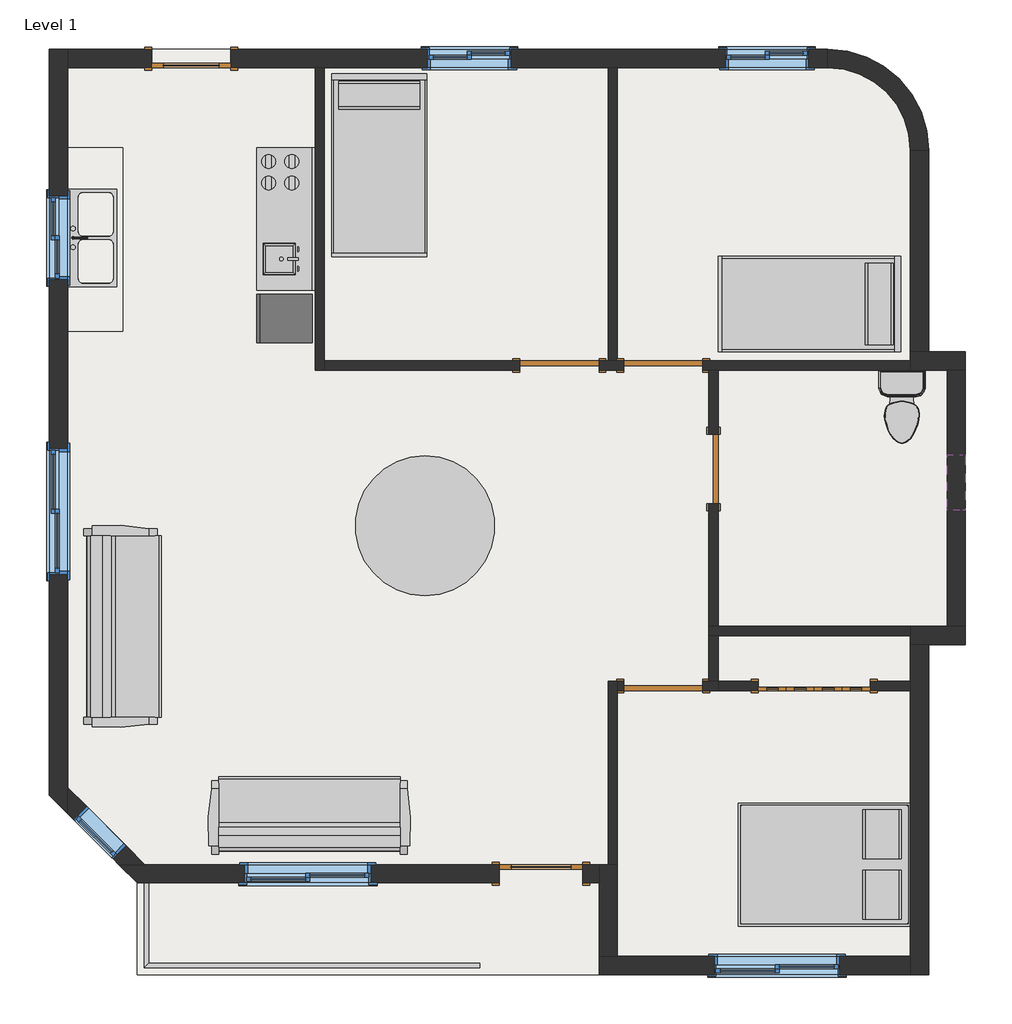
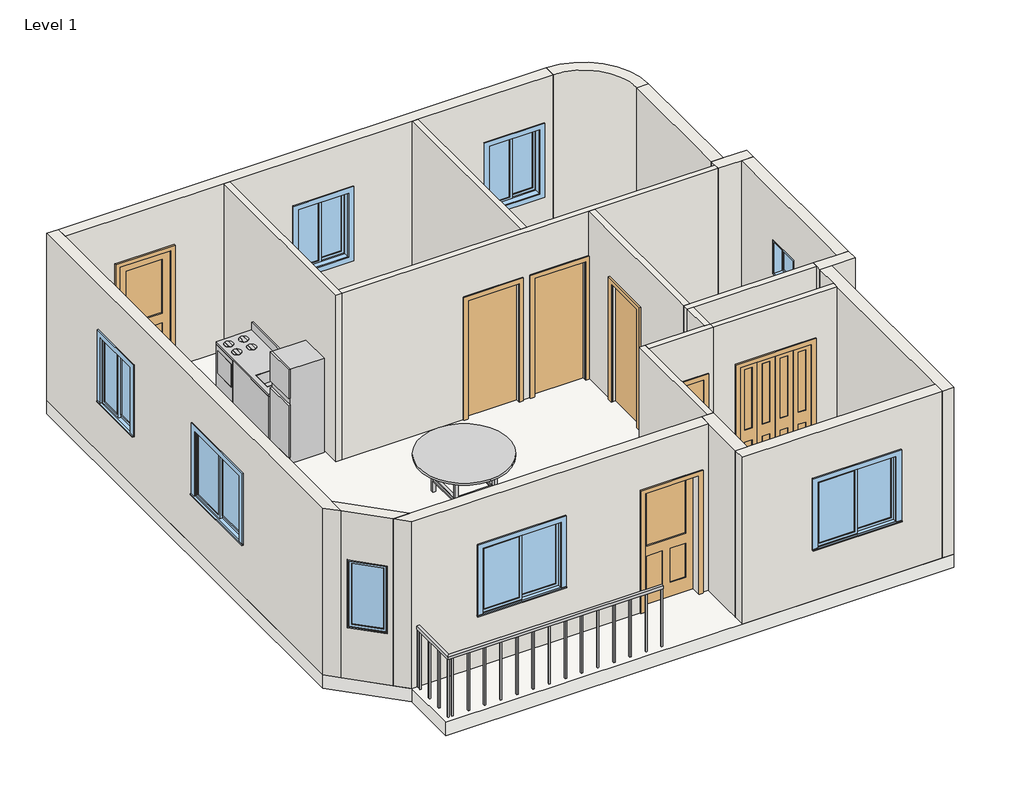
# One storey, incomplete: 21 walls, 8 windows, 7 doors, 6 furniture elements, 3 flow terminals, 2 slabs, 1 railing.
"""IFC4 building model written with IfcOpenShell, lengths in millimetres."""

from ifc_helpers import new_model, si_unit, point, frame, frame_2d, origin, origin_with_axes, place, context, project, spatial, polyline, circle_curve, trimmed, segment, composite_curve, outline, extrude, faceted_brep, transform, mapped, element, save
from components import m_bifold_4_panel_1220_x_2134mm_c9b228a8, m_single_decorative_1_0864_x_2134mm_a8b8a0d3, m_single_decorative_1_0914_x_2134mm_d79a5f66, m_single_flush_0762_x_2134mm_2f099e9c, m_single_flush_0864_x_2134mm_3838e64d, m_single_flush_0864_x_2134mm_bdbe8edc, m_kitchen_unit_635_mmx2135_mm_826748c3, m_sink_kitchen_double_1065_mmx535_mm_public_2da4eb16, m_toilet_domestic_3d_m_toilet_domestic_3d_5cb52bd4, m_toilet_domestic_3d_m_toilet_domestic_3d_183bbd19, m_bed_box_1346_x_1880mm_double_9a731973, m_bed_shaker_1040_x_1981mm_twin_31f1bf66, m_sofa_pensi_2134mm_eda8efce, m_table_dining_round_w_chairs_1525mm_diameter_e8096f67, m_fixed_0610_x_0610mm_cacddef9, m_fixed_0610_x_1220mm_4e981104, m_sliding_with_trim_0915_x_1220mm_c5f69082, m_sliding_with_trim_1372_x_1220mm_1cbd48f5

model = new_model("IFC4")

# Units and contexts
model_context = context("Model", 3, world=origin())
ifc_project = project(units=[si_unit("LENGTHUNIT", "METRE", prefix="MILLI")], contexts=[model_context])

# Site, building, storey
site = spatial("IfcSite", under=ifc_project)
building = spatial("IfcBuilding", under=site)
storey = spatial("IfcBuildingStorey", under=building, Name="Level 1", Elevation=0.0)

# Doors
placement = place(None, origin())
m_bifold_4_panel_1220_x_2134mm_shape = m_bifold_4_panel_1220_x_2134mm_c9b228a8(model_context)
element("IfcDoor", 1, ObjectType="M_Bifold-4 Panel : 1220 x 2134mm", at=placement, inside=storey, context=model_context, shape_type="MappedRepresentation", body=[
    mapped(m_bifold_4_panel_1220_x_2134mm_shape, transform((-9012.9123896, -2705.4324328, 0.0), x_axis=(-1.0, 0.0, 0.0), y_axis=(0.0, -1.0, 0.0), z_axis=(0.0, 0.0, 1.0))),
])
m_single_decorative_1_0864_x_2134mm_shape = m_single_decorative_1_0864_x_2134mm_a8b8a0d3(model_context)
element("IfcDoor", 2, ObjectType="M_Single-Decorative 1 : 0864 x 2134mm", at=placement, inside=storey, context=model_context, shape_type="MappedRepresentation", body=[
    mapped(m_single_decorative_1_0864_x_2134mm_shape, transform((-15812.9123896, 4144.5675672, 0.0), x_axis=(-1.0, 0.0, 0.0), y_axis=(0.0, -1.0, 0.0), z_axis=(0.0, 0.0, 1.0))),
])
m_single_decorative_1_0914_x_2134mm_shape = m_single_decorative_1_0914_x_2134mm_d79a5f66(model_context)
element("IfcDoor", 3, ObjectType="M_Single-Decorative 1 : 0914 x 2134mm", at=placement, inside=storey, context=model_context, shape_type="MappedRepresentation", body=[
    mapped(m_single_decorative_1_0914_x_2134mm_shape, transform((-11994.9123896, -4755.4324328, 0.0), x_axis=(1.0, 0.0, 0.0), y_axis=(0.0, 1.0, 0.0), z_axis=(0.0, 0.0, 1.0))),
])
m_single_flush_0762_x_2134mm_shape = m_single_flush_0762_x_2134mm_2f099e9c(model_context)
element("IfcDoor", 4, ObjectType="M_Single-Flush : 0762 x 2134mm", at=placement, inside=storey, context=model_context, shape_type="MappedRepresentation", body=[
    mapped(m_single_flush_0762_x_2134mm_shape, transform((-10112.9123896, -336.4324328, 0.0), x_axis=(0.0, 1.0, 0.0), y_axis=(-1.0, 0.0, 0.0), z_axis=(0.0, 0.0, 1.0))),
])
m_single_flush_0864_x_2134mm_shape = m_single_flush_0864_x_2134mm_3838e64d(model_context)
element("IfcDoor", 5, ObjectType="M_Single-Flush : 0864 x 2134mm", at=placement, inside=storey, context=model_context, shape_type="MappedRepresentation", body=[
    mapped(m_single_flush_0864_x_2134mm_shape, transform((-10662.9123896, -2705.4324328, 0.0), x_axis=(-1.0, 0.0, 0.0), y_axis=(0.0, -1.0, 0.0), z_axis=(0.0, 0.0, 1.0))),
])
element("IfcDoor", 6, ObjectType="M_Single-Flush : 0864 x 2134mm", at=placement, inside=storey, context=model_context, shape_type="MappedRepresentation", body=[
    mapped(m_single_flush_0864_x_2134mm_shape, transform((-11794.9123896, 794.5675672, 0.0), x_axis=(1.0, 0.0, 0.0), y_axis=(0.0, 1.0, 0.0), z_axis=(0.0, 0.0, 1.0))),
])
m_single_flush_0864_x_2134mm_2_shape = m_single_flush_0864_x_2134mm_bdbe8edc(model_context)
element("IfcDoor", 7, ObjectType="M_Single-Flush : 0864 x 2134mm", at=placement, inside=storey, context=model_context, shape_type="MappedRepresentation", body=[
    mapped(m_single_flush_0864_x_2134mm_2_shape, transform((-10662.9123896, 794.5675672, 0.0), x_axis=(-1.0, 0.0, 0.0), y_axis=(0.0, -1.0, 0.0), z_axis=(0.0, 0.0, 1.0))),
])

# Flow terminals
m_kitchen_unit_635_mmx2135_mm_shape = m_kitchen_unit_635_mmx2135_mm_826748c3(model_context)
element("IfcFlowTerminal", 8, ObjectType="M_Kitchen Unit : 635 mmx2135 mm", at=placement, inside=storey, context=model_context, shape_type="MappedRepresentation", body=[
    mapped(m_kitchen_unit_635_mmx2135_mm_shape, transform((-14462.9123896, 2394.5675672, 0.0), x_axis=(-1.0000000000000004, 0.0, 0.0), y_axis=(0.0, -1.0000000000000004, 0.0), z_axis=(0.0, 0.0, 1.0))),
])
m_sink_kitchen_double_1065_mmx535_mm_public_shape = m_sink_kitchen_double_1065_mmx535_mm_public_2da4eb16(model_context)
element("IfcFlowTerminal", 9, ObjectType="M_Sink - Kitchen - Double : 1065 mmx535 mm - Public", at=placement, inside=storey, context=model_context, shape_type="MappedRepresentation", body=[
    mapped(m_sink_kitchen_double_1065_mmx535_mm_public_shape, transform((-17162.9123896, 2187.0675672, 800.0), x_axis=(0.0, 1.0, 0.0), y_axis=(-1.0, 0.0, 0.0), z_axis=(0.0, 0.0, 1.0))),
])
m_toilet_domestic_3d_m_toilet_domestic_3d_shape = m_toilet_domestic_3d_m_toilet_domestic_3d_5cb52bd4(model_context)
m_toilet_domestic_3d_m_toilet_domestic_3d_2_shape = m_toilet_domestic_3d_m_toilet_domestic_3d_183bbd19(model_context)
element("IfcFlowTerminal", 10, ObjectType="M_Toilet-Domestic-3D : M_Toilet-Domestic-3D", at=placement, inside=storey, context=model_context, shape_type="MappedRepresentation", body=[
    mapped(m_toilet_domestic_3d_m_toilet_domestic_3d_shape, transform((-8056.308417, 249.8715399, 0.0), x_axis=(1.0, 0.0, 0.0), y_axis=(0.0, 1.0, 0.0), z_axis=(0.0, 0.0, 1.0))),
    mapped(m_toilet_domestic_3d_m_toilet_domestic_3d_2_shape, transform((-8056.308417, 249.8715399, 0.0), x_axis=(1.0, 0.0, 0.0), y_axis=(0.0, 1.0, 0.0), z_axis=(0.0, 0.0, 1.0))),
])

# Furniture
m_bed_box_1346_x_1880mm_double_shape = m_bed_box_1346_x_1880mm_double_9a731973(model_context)
element("IfcFurniture", 11, ObjectType="M_Bed-Box : 1346 x 1880mm - Double", at=placement, inside=storey, context=model_context, shape_type="MappedRepresentation", body=[
    mapped(m_bed_box_1346_x_1880mm_double_shape, transform((-8668.4828814, -4316.2799738, 0.0), x_axis=(0.0, -1.0, 0.0), y_axis=(1.0, 0.0, 0.0), z_axis=(0.0, 0.0, 1.0))),
])
m_bed_shaker_1040_x_1981mm_twin_shape = m_bed_shaker_1040_x_1981mm_twin_31f1bf66(model_context)
element("IfcFurniture", 12, ObjectType="M_Bed-Shaker : 1040 x 1981mm - Twin", at=placement, inside=storey, context=model_context, shape_type="MappedRepresentation", body=[
    mapped(m_bed_shaker_1040_x_1981mm_twin_shape, transform((-8081.7123896, 1446.2175672, 0.0), x_axis=(0.0, -1.0000000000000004, 0.0), y_axis=(1.0000000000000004, 0.0, 0.0), z_axis=(0.0, 0.0, 1.0))),
])
element("IfcFurniture", 13, ObjectType="M_Bed-Shaker : 1040 x 1981mm - Twin", at=placement, inside=storey, context=model_context, shape_type="MappedRepresentation", body=[
    mapped(m_bed_shaker_1040_x_1981mm_twin_shape, transform((-13743.1623896, 3964.5675672, 0.0), x_axis=(1.0, 0.0, 0.0), y_axis=(0.0, 1.0, 0.0), z_axis=(0.0, 0.0, 1.0))),
])
m_sofa_pensi_2134mm_shape = m_sofa_pensi_2134mm_eda8efce(model_context)
element("IfcFurniture", 14, ObjectType="M_Sofa-Pensi : 2134mm", at=placement, inside=storey, context=model_context, shape_type="MappedRepresentation", body=[
    mapped(m_sofa_pensi_2134mm_shape, transform((-14244.3061396, -3838.3225967, 0.0), x_axis=(-0.9999999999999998, 0.0, 0.0), y_axis=(0.0, -0.9999999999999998, 0.0), z_axis=(0.0, 0.0, 1.0))),
])
element("IfcFurniture", 15, ObjectType="M_Sofa-Pensi : 2134mm", at=placement, inside=storey, context=model_context, shape_type="MappedRepresentation", body=[
    mapped(m_sofa_pensi_2134mm_shape, transform((-16285.8025536, -2334.0386828, 0.0), x_axis=(0.0, 1.0000000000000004, 0.0), y_axis=(-1.0000000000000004, 0.0, 0.0), z_axis=(0.0, 0.0, 1.0))),
])
m_table_dining_round_w_chairs_1525mm_diameter_shape = m_table_dining_round_w_chairs_1525mm_diameter_e8096f67(model_context)
element("IfcFurniture", 16, ObjectType="M_Table-Dining Round w Chairs : 1525mm Diameter", at=placement, inside=storey, context=model_context, shape_type="MappedRepresentation", body=[
    mapped(m_table_dining_round_w_chairs_1525mm_diameter_shape, transform((-13366.5943568, -770.5537443, 0.0), x_axis=(1.0, 0.0, 0.0), y_axis=(0.0, 1.0, 0.0), z_axis=(0.0, 0.0, 1.0))),
])

# Railing
element("IfcRailing", 17, ObjectType="1100mm", at=placement, inside=storey, context=model_context, shape_type="SolidModel", body=[
    faceted_brep([(-12662.9123896, -5780.4324328, 1100.0), (-12662.9123896, -5780.4324328, 1050.0), (-12662.9123896, -5730.4324328, 1050.0), (-12662.9123896, -5730.4324328, 1100.0), (-16329.3337459, -5780.4324328, 1100.0), (-16329.3337459, -5780.4324328, 1050.0), (-16279.3337459, -5730.4324328, 1050.0), (-16279.3337459, -5730.4324328, 1100.0), (-16329.3337459, -4855.4324328, 1100.0), (-16279.3337459, -4855.4324328, 1100.0), (-16279.3337459, -4855.4324328, 1050.0), (-16329.3337459, -4855.4324328, 1050.0)], [[[0, 1, 2, 3]], [[1, 0, 4, 5]], [[2, 1, 5, 6]], [[3, 2, 6, 7]], [[0, 3, 7, 4]], [[8, 9, 10, 11]], [[5, 4, 8, 11]], [[6, 5, 11, 10]], [[7, 6, 10, 9]], [[4, 7, 9, 8]]]),
    extrude(outline(polyline([(-16291.8337459, -4942.9324328), (-16316.8337459, -4942.9324328), (-16316.8337459, -4917.9324328), (-16291.8337459, -4917.9324328), (-16291.8337459, -4942.9324328)])), origin_with_axes(), (0.0, 0.0, 1.0), 1050.0),
    extrude(outline(polyline([(-16291.8337459, -5217.9324328), (-16316.8337459, -5217.9324328), (-16316.8337459, -5192.9324328), (-16291.8337459, -5192.9324328), (-16291.8337459, -5217.9324328)])), origin_with_axes(), (0.0, 0.0, 1.0), 1050.0),
    extrude(outline(polyline([(-16291.8337459, -5492.9324328), (-16316.8337459, -5492.9324328), (-16316.8337459, -5467.9324328), (-16291.8337459, -5467.9324328), (-16291.8337459, -5492.9324328)])), origin_with_axes(), (0.0, 0.0, 1.0), 1050.0),
    extrude(outline(polyline([(-16225.4123896, -5742.9324328), (-16225.4123896, -5767.9324328), (-16250.4123896, -5767.9324328), (-16250.4123896, -5742.9324328), (-16225.4123896, -5742.9324328)])), origin_with_axes(), (0.0, 0.0, 1.0), 1050.0),
    extrude(outline(polyline([(-15950.4123896, -5742.9324328), (-15950.4123896, -5767.9324328), (-15975.4123896, -5767.9324328), (-15975.4123896, -5742.9324328), (-15950.4123896, -5742.9324328)])), origin_with_axes(), (0.0, 0.0, 1.0), 1050.0),
    extrude(outline(polyline([(-15675.4123896, -5742.9324328), (-15675.4123896, -5767.9324328), (-15700.4123896, -5767.9324328), (-15700.4123896, -5742.9324328), (-15675.4123896, -5742.9324328)])), origin_with_axes(), (0.0, 0.0, 1.0), 1050.0),
    extrude(outline(polyline([(-15400.4123896, -5742.9324328), (-15400.4123896, -5767.9324328), (-15425.4123896, -5767.9324328), (-15425.4123896, -5742.9324328), (-15400.4123896, -5742.9324328)])), origin_with_axes(), (0.0, 0.0, 1.0), 1050.0),
    extrude(outline(polyline([(-15125.4123896, -5742.9324328), (-15125.4123896, -5767.9324328), (-15150.4123896, -5767.9324328), (-15150.4123896, -5742.9324328), (-15125.4123896, -5742.9324328)])), origin_with_axes(), (0.0, 0.0, 1.0), 1050.0),
    extrude(outline(polyline([(-14850.4123896, -5742.9324328), (-14850.4123896, -5767.9324328), (-14875.4123896, -5767.9324328), (-14875.4123896, -5742.9324328), (-14850.4123896, -5742.9324328)])), origin_with_axes(), (0.0, 0.0, 1.0), 1050.0),
    extrude(outline(polyline([(-14575.4123896, -5742.9324328), (-14575.4123896, -5767.9324328), (-14600.4123896, -5767.9324328), (-14600.4123896, -5742.9324328), (-14575.4123896, -5742.9324328)])), origin_with_axes(), (0.0, 0.0, 1.0), 1050.0),
    extrude(outline(polyline([(-14300.4123896, -5742.9324328), (-14300.4123896, -5767.9324328), (-14325.4123896, -5767.9324328), (-14325.4123896, -5742.9324328), (-14300.4123896, -5742.9324328)])), origin_with_axes(), (0.0, 0.0, 1.0), 1050.0),
    extrude(outline(polyline([(-14025.4123896, -5742.9324328), (-14025.4123896, -5767.9324328), (-14050.4123896, -5767.9324328), (-14050.4123896, -5742.9324328), (-14025.4123896, -5742.9324328)])), origin_with_axes(), (0.0, 0.0, 1.0), 1050.0),
    extrude(outline(polyline([(-13750.4123896, -5742.9324328), (-13750.4123896, -5767.9324328), (-13775.4123896, -5767.9324328), (-13775.4123896, -5742.9324328), (-13750.4123896, -5742.9324328)])), origin_with_axes(), (0.0, 0.0, 1.0), 1050.0),
    extrude(outline(polyline([(-13475.4123896, -5742.9324328), (-13475.4123896, -5767.9324328), (-13500.4123896, -5767.9324328), (-13500.4123896, -5742.9324328), (-13475.4123896, -5742.9324328)])), origin_with_axes(), (0.0, 0.0, 1.0), 1050.0),
    extrude(outline(polyline([(-13200.4123896, -5742.9324328), (-13200.4123896, -5767.9324328), (-13225.4123896, -5767.9324328), (-13225.4123896, -5742.9324328), (-13200.4123896, -5742.9324328)])), origin_with_axes(), (0.0, 0.0, 1.0), 1050.0),
    extrude(outline(polyline([(-12925.4123896, -5742.9324328), (-12925.4123896, -5767.9324328), (-12950.4123896, -5767.9324328), (-12950.4123896, -5742.9324328), (-12925.4123896, -5742.9324328)])), origin_with_axes(), (0.0, 0.0, 1.0), 1050.0),
    extrude(outline(polyline([(-16291.8337459, -5742.9324328), (-16291.8337459, -5767.9324328), (-16316.8337459, -5767.9324328), (-16316.8337459, -5742.9324328), (-16291.8337459, -5742.9324328)])), origin_with_axes(), (0.0, 0.0, 1.0), 1050.0),
    extrude(outline(polyline([(-16291.8337459, -4880.4324328), (-16316.8337459, -4880.4324328), (-16316.8337459, -4855.4324328), (-16291.8337459, -4855.4324328), (-16291.8337459, -4880.4324328)])), origin_with_axes(), (0.0, 0.0, 1.0), 1050.0),
    extrude(outline(polyline([(-12662.9123896, -5742.9324328), (-12662.9123896, -5767.9324328), (-12687.9123896, -5767.9324328), (-12687.9123896, -5742.9324328), (-12662.9123896, -5742.9324328)])), origin_with_axes(), (0.0, 0.0, 1.0), 1050.0),
])

# Slabs
element("IfcSlab", 18, ObjectType="Generic 50mm", at=placement, inside=storey, context=model_context, shape_type="SweptSolid", body=[
    extrude(outline(polyline([(-16562.9123896, 3169.8695603), (-16562.9123896, 1169.8695603), (-17162.9123896, 1169.8695603), (-17162.9123896, 3169.8695603), (-16562.9123896, 3169.8695603)])), frame((0.0, 0.0, 750.0), z_axis=(0.0, 0.0, 1.0), x_axis=(1.0, 0.0, 0.0)), (0.0, 0.0, 1.0), 50.0),
])
element("IfcSlab", 19, ObjectType="Standard Timber-Wood Finish", at=placement, inside=storey, context=model_context, shape_type="SweptSolid", body=[
    extrude(outline(composite_curve([segment(polyline([(-7762.9123896, 944.5675672), (-7362.9123896, 944.5675672), (-7362.9123896, -2255.4324328), (-7762.9123896, -2255.4324328), (-7762.9123896, -5855.4324328), (-16404.3337459, -5855.4324328), (-16404.3337459, -4855.4324328), (-17362.9123896, -3896.853789), (-17362.9123896, 4244.5675672), (-8862.9123896, 4244.5675672)]), True, "CONTINUOUS"), segment(trimmed(circle_curve(frame_2d((-8862.9123896, 3144.5675672)), 1100.0), [point((-8862.9123896, 4244.5675672))], [point((-7762.9123896, 3144.5675672))], False, "CARTESIAN"), True, "CONTINUOUS"), segment(polyline([(-7762.9123896, 3144.5675672), (-7762.9123896, 944.5675672)]), True, "CONTINUOUS")], self_intersect=False)), frame((0.0, 0.0, -241.0), z_axis=(0.0, 0.0, 1.0), x_axis=(1.0, 0.0, 0.0)), (0.0, 0.0, 1.0), 241.0),
])

# Walls
element("IfcWall", 20, ObjectType="Generic - 100mm", at=placement, inside=storey, context=model_context, shape_type="Brep", body=[
    faceted_brep([(-7962.9123896, -2055.4324328, 0.0), (-10062.9123896, -2055.4324328, 0.0), (-10162.9123896, -2055.4324328, 0.0), (-10162.9123896, -2055.4324328, 3000.0), (-10062.9123896, -2055.4324328, 3000.0), (-7962.9123896, -2055.4324328, 3000.0), (-7962.9123896, -2155.4324328, 0.0), (-7962.9123896, -2155.4324328, 3000.0), (-10062.9123896, -2155.4324328, 3000.0), (-10162.9123896, -2155.4324328, 3000.0), (-10162.9123896, -2155.4324328, 0.0), (-10062.9123896, -2155.4324328, 0.0)], [[[0, 1, 2, 3, 4, 5]], [[6, 7, 8, 9, 10, 11]], [[2, 1, 0, 6, 11, 10]], [[5, 4, 3, 9, 8, 7]], [[0, 5, 7, 6]], [[3, 2, 10, 9]]]),
])
element("IfcWall", 21, ObjectType="Generic - 100mm", at=placement, inside=storey, context=model_context, shape_type="Brep", body=[
    faceted_brep([(-11262.9123896, -2655.4324328, 0.0), (-11262.9123896, -4655.4324328, 0.0), (-11262.9123896, -4655.4324328, 3000.0), (-11262.9123896, -2655.4324328, 3000.0), (-11162.9123896, -2655.4324328, 0.0), (-11162.9123896, -2655.4324328, 3000.0), (-11162.9123896, -2755.4324328, 3000.0), (-11162.9123896, -4655.4324328, 3000.0), (-11162.9123896, -4655.4324328, 0.0), (-11162.9123896, -2755.4324328, 0.0)], [[[0, 1, 2, 3]], [[4, 5, 6, 7, 8, 9]], [[1, 0, 4, 9, 8]], [[3, 2, 7, 6, 5]], [[2, 1, 8, 7]], [[0, 3, 5, 4]]]),
])
element("IfcWall", 22, ObjectType="Generic - 100mm", at=placement, inside=storey, context=model_context, shape_type="Brep", body=[
    faceted_brep([(-11094.9123896, -2655.4324328, 2134.0), (-11094.9123896, -2655.4324328, 0.0), (-11162.9123896, -2655.4324328, 0.0), (-11162.9123896, -2655.4324328, 3000.0), (-10162.9123896, -2655.4324328, 3000.0), (-10062.9123896, -2655.4324328, 3000.0), (-10062.9123896, -2655.4324328, 0.0), (-10162.9123896, -2655.4324328, 0.0), (-10230.9123896, -2655.4324328, 0.0), (-10230.9123896, -2655.4324328, 2134.0), (-11162.9123896, -2755.4324328, 0.0), (-11094.9123896, -2755.4324328, 0.0), (-11094.9123896, -2755.4324328, 2134.0), (-10230.9123896, -2755.4324328, 2134.0), (-10230.9123896, -2755.4324328, 0.0), (-10062.9123896, -2755.4324328, 0.0), (-10062.9123896, -2755.4324328, 3000.0), (-11162.9123896, -2755.4324328, 3000.0)], [[[0, 1, 2, 3, 4, 5, 6, 7, 8, 9]], [[10, 11, 12, 13, 14, 15, 16, 17]], [[2, 1, 11, 10]], [[8, 7, 6, 15, 14]], [[5, 4, 3, 17, 16]], [[3, 2, 10, 17]], [[6, 5, 16, 15]], [[12, 11, 1, 0]], [[13, 12, 0, 9]], [[14, 13, 9, 8]]]),
])
element("IfcWall", 23, ObjectType="Generic - 100mm", at=placement, inside=storey, context=model_context, shape_type="SweptSolid", body=[
    extrude(outline(polyline([(-10162.9123896, -2655.4324328), (-10162.9123896, -2155.4324328), (-10062.9123896, -2155.4324328), (-10062.9123896, -2655.4324328), (-10162.9123896, -2655.4324328)])), origin_with_axes(), (0.0, 0.0, 1.0), 3000.0),
])
element("IfcWall", 24, ObjectType="Generic - 100mm", at=placement, inside=storey, context=model_context, shape_type="SweptSolid", body=[
    extrude(outline(polyline([(3000.0, -7962.9123896), (3000.0, -10062.9123896), (0.0, -10062.9123896), (0.0, -9622.9123896), (2134.0, -9622.9123896), (2134.0, -8402.9123896), (0.0, -8402.9123896), (0.0, -7962.9123896), (3000.0, -7962.9123896)])), frame((0.0, -2755.4324328, 0.0), z_axis=(0.0, 1.0, 0.0), x_axis=(0.0, 0.0, 1.0)), (0.0, 0.0, 1.0), 100.0),
])
element("IfcWall", 25, ObjectType="Generic - 100mm", at=placement, inside=storey, context=model_context, shape_type="Brep", body=[
    faceted_brep([(-11094.9123896, 844.5675672, 0.0), (-11162.9123896, 844.5675672, 0.0), (-11262.9123896, 844.5675672, 0.0), (-11362.9123896, 844.5675672, 0.0), (-11362.9123896, 844.5675672, 2134.0), (-12226.9123896, 844.5675672, 2134.0), (-12226.9123896, 844.5675672, 0.0), (-14362.9123896, 844.5675672, 0.0), (-14362.9123896, 844.5675672, 3000.0), (-11262.9123896, 844.5675672, 3000.0), (-11162.9123896, 844.5675672, 3000.0), (-7962.9123896, 844.5675672, 3000.0), (-7962.9123896, 844.5675672, 0.0), (-10230.9123896, 844.5675672, 0.0), (-10230.9123896, 844.5675672, 2134.0), (-11094.9123896, 844.5675672, 2134.0), (-11362.9123896, 744.5675672, 2134.0), (-11362.9123896, 744.5675672, 0.0), (-11094.9123896, 744.5675672, 0.0), (-11094.9123896, 744.5675672, 2134.0), (-10230.9123896, 744.5675672, 2134.0), (-10230.9123896, 744.5675672, 0.0), (-10162.9123896, 744.5675672, 0.0), (-10062.9123896, 744.5675672, 0.0), (-7962.9123896, 744.5675672, 0.0), (-7962.9123896, 744.5675672, 3000.0), (-10062.9123896, 744.5675672, 3000.0), (-10162.9123896, 744.5675672, 3000.0), (-14362.9123896, 744.5675672, 3000.0), (-14362.9123896, 744.5675672, 0.0), (-12226.9123896, 744.5675672, 0.0), (-12226.9123896, 744.5675672, 2134.0)], [[[0, 1, 2, 3, 4, 5, 6, 7, 8, 9, 10, 11, 12, 13, 14, 15]], [[16, 17, 18, 19, 20, 21, 22, 23, 24, 25, 26, 27, 28, 29, 30, 31]], [[13, 12, 24, 23, 22, 21]], [[30, 29, 7, 6]], [[18, 17, 3, 2, 1, 0]], [[11, 10, 9, 8, 28, 27, 26, 25]], [[12, 11, 25, 24]], [[8, 7, 29, 28]], [[19, 18, 0, 15]], [[20, 19, 15, 14]], [[21, 20, 14, 13]], [[4, 3, 17, 16]], [[5, 4, 16, 31]], [[6, 5, 31, 30]]]),
])
element("IfcWall", 26, ObjectType="Generic - 100mm", at=placement, inside=storey, context=model_context, shape_type="SweptSolid", body=[
    extrude(outline(polyline([(744.5675672, 0.0), (44.5675672, 0.0), (44.5675672, 2134.0), (-717.4324328, 2134.0), (-717.4324328, 0.0), (-2055.4324328, 0.0), (-2055.4324328, 3000.0), (744.5675672, 3000.0), (744.5675672, 0.0)])), frame((-10162.9123896, 0.0, 0.0), z_axis=(1.0, 0.0, 0.0), x_axis=(0.0, 1.0, 0.0)), (0.0, 0.0, 1.0), 100.0),
])
element("IfcWall", 27, ObjectType="Generic - 100mm", at=placement, inside=storey, context=model_context, shape_type="Brep", body=[
    faceted_brep([(-14462.9123896, 4044.5675672, 0.0), (-14462.9123896, 744.5675672, 0.0), (-14462.9123896, 744.5675672, 3000.0), (-14462.9123896, 4044.5675672, 3000.0), (-14362.9123896, 4044.5675672, 0.0), (-14362.9123896, 4044.5675672, 3000.0), (-14362.9123896, 844.5675672, 3000.0), (-14362.9123896, 744.5675672, 3000.0), (-14362.9123896, 744.5675672, 0.0), (-14362.9123896, 844.5675672, 0.0)], [[[0, 1, 2, 3]], [[4, 5, 6, 7, 8, 9]], [[1, 0, 4, 9, 8]], [[3, 2, 7, 6, 5]], [[0, 3, 5, 4]], [[2, 1, 8, 7]]]),
])
element("IfcWall", 28, ObjectType="Generic - 100mm", at=placement, inside=storey, context=model_context, shape_type="SweptSolid", body=[
    extrude(outline(polyline([(-11262.9123896, 844.5675672), (-11262.9123896, 4044.5675672), (-11162.9123896, 4044.5675672), (-11162.9123896, 844.5675672), (-11262.9123896, 844.5675672)])), origin_with_axes(), (0.0, 0.0, 1.0), 3000.0),
])
element("IfcWall", 29, ObjectType="Generic - 200mm", at=placement, inside=storey, context=model_context, shape_type="Brep", body=[
    faceted_brep([(-17162.9123896, -4096.853789, 0.0), (-17162.9123896, -3814.0110766, 0.0), (-17162.9123896, 4044.5675672, 0.0), (-17162.9123896, 4244.5675672, 0.0), (-17162.9123896, 4244.5675672, 3000.0), (-17162.9123896, 4044.5675672, 3000.0), (-17162.9123896, -3814.0110766, 3000.0), (-17162.9123896, -4096.853789, 3000.0), (-17162.9123896, -113.4824328, 2135.0), (-17162.9123896, -113.4824328, 915.0), (-17162.9123896, -1485.4824328, 915.0), (-17162.9123896, -1485.4824328, 2135.0), (-17162.9123896, 2644.5675672, 2135.0), (-17162.9123896, 2644.5675672, 915.0), (-17162.9123896, 1729.5675672, 915.0), (-17162.9123896, 1729.5675672, 2135.0), (-17362.9123896, -3896.853789, 0.0), (-17362.9123896, -3896.853789, 3000.0), (-17362.9123896, 4244.5675672, 3000.0), (-17362.9123896, 4244.5675672, 0.0), (-17362.9123896, -113.4824328, 2135.0), (-17362.9123896, -1485.4824328, 2135.0), (-17362.9123896, -1485.4824328, 915.0), (-17362.9123896, -113.4824328, 915.0), (-17362.9123896, 2644.5675672, 2135.0), (-17362.9123896, 1729.5675672, 2135.0), (-17362.9123896, 1729.5675672, 915.0), (-17362.9123896, 2644.5675672, 915.0)], [[[0, 1, 2, 3, 4, 5, 6, 7], [8, 9, 10, 11], [12, 13, 14, 15]], [[16, 17, 18, 19], [20, 21, 22, 23], [24, 25, 26, 27]], [[3, 2, 1, 0, 16, 19]], [[7, 6, 5, 4, 18, 17]], [[4, 3, 19, 18]], [[9, 8, 20, 23]], [[10, 9, 23, 22]], [[11, 10, 22, 21]], [[8, 11, 21, 20]], [[13, 12, 24, 27]], [[14, 13, 27, 26]], [[15, 14, 26, 25]], [[12, 15, 25, 24]], [[0, 7, 17, 16]]]),
])
element("IfcWall", 30, ObjectType="Generic - 200mm", at=placement, inside=storey, context=model_context, shape_type="Brep", body=[
    faceted_brep([(-8862.9123896, 4044.5675672, 0.0), (-8862.9123896, 4044.5675672, 3000.0), (-11162.9123896, 4044.5675672, 3000.0), (-11262.9123896, 4044.5675672, 3000.0), (-14362.9123896, 4044.5675672, 3000.0), (-14462.9123896, 4044.5675672, 3000.0), (-17162.9123896, 4044.5675672, 3000.0), (-17162.9123896, 4044.5675672, 0.0), (-16244.9123896, 4044.5675672, 0.0), (-16244.9123896, 4044.5675672, 2134.0), (-15380.9123896, 4044.5675672, 2134.0), (-15380.9123896, 4044.5675672, 0.0), (-14462.9123896, 4044.5675672, 0.0), (-14362.9123896, 4044.5675672, 0.0), (-11262.9123896, 4044.5675672, 0.0), (-11162.9123896, 4044.5675672, 0.0), (-9070.4373896, 4044.5675672, 2135.0), (-9070.4373896, 4044.5675672, 915.0), (-9985.4373896, 4044.5675672, 915.0), (-9985.4373896, 4044.5675672, 2135.0), (-12320.4373896, 4044.5675672, 2135.0), (-12320.4373896, 4044.5675672, 915.0), (-13235.4373896, 4044.5675672, 915.0), (-13235.4373896, 4044.5675672, 2135.0), (-8862.9123896, 4244.5675672, 3000.0), (-8862.9123896, 4244.5675672, 0.0), (-15380.9123896, 4244.5675672, 0.0), (-15380.9123896, 4244.5675672, 2134.0), (-16244.9123896, 4244.5675672, 2134.0), (-16244.9123896, 4244.5675672, 0.0), (-17162.9123896, 4244.5675672, 0.0), (-17162.9123896, 4244.5675672, 3000.0), (-9070.4373896, 4244.5675672, 2135.0), (-9985.4373896, 4244.5675672, 2135.0), (-9985.4373896, 4244.5675672, 915.0), (-9070.4373896, 4244.5675672, 915.0), (-12320.4373896, 4244.5675672, 2135.0), (-13235.4373896, 4244.5675672, 2135.0), (-13235.4373896, 4244.5675672, 915.0), (-12320.4373896, 4244.5675672, 915.0)], [[[0, 1, 2, 3, 4, 5, 6, 7, 8, 9, 10, 11, 12, 13, 14, 15], [16, 17, 18, 19], [20, 21, 22, 23]], [[24, 25, 26, 27, 28, 29, 30, 31], [32, 33, 34, 35], [36, 37, 38, 39]], [[7, 30, 29, 8]], [[25, 0, 15, 14, 13, 12, 11, 26]], [[1, 0, 25, 24]], [[6, 5, 4, 3, 2, 1, 24, 31]], [[7, 6, 31, 30]], [[28, 9, 8, 29]], [[9, 28, 27, 10]], [[10, 27, 26, 11]], [[17, 16, 32, 35]], [[18, 17, 35, 34]], [[19, 18, 34, 33]], [[16, 19, 33, 32]], [[21, 20, 36, 39]], [[22, 21, 39, 38]], [[23, 22, 38, 37]], [[20, 23, 37, 36]]]),
])
element("IfcWall", 31, ObjectType="Generic - 200mm", at=placement, inside=storey, context=model_context, shape_type="SweptSolid", body=[
    extrude(outline(polyline([(-7962.9123896, 944.5675672), (-7962.9123896, 3144.5675672), (-7762.9123896, 3144.5675672), (-7762.9123896, 944.5675672), (-7962.9123896, 944.5675672)])), origin_with_axes(), (0.0, 0.0, 1.0), 3000.0),
])
element("IfcWall", 32, ObjectType="Generic - 200mm", at=placement, inside=storey, context=model_context, shape_type="Brep", body=[
    faceted_brep([(-7962.9123896, 744.5675672, 0.0), (-7562.9123896, 744.5675672, 0.0), (-7362.9123896, 744.5675672, 0.0), (-7362.9123896, 744.5675672, 3000.0), (-7562.9123896, 744.5675672, 3000.0), (-7962.9123896, 744.5675672, 3000.0), (-7962.9123896, 944.5675672, 0.0), (-7962.9123896, 944.5675672, 3000.0), (-7762.9123896, 944.5675672, 3000.0), (-7362.9123896, 944.5675672, 3000.0), (-7362.9123896, 944.5675672, 0.0), (-7762.9123896, 944.5675672, 0.0), (-7962.9123896, 844.5675672, 0.0), (-7962.9123896, 844.5675672, 3000.0)], [[[0, 1, 2, 3, 4, 5]], [[6, 7, 8, 9, 10, 11]], [[2, 1, 0, 12, 6, 11, 10]], [[5, 4, 3, 9, 8, 7, 13]], [[0, 5, 13, 7, 6, 12]], [[3, 2, 10, 9]]]),
])
element("IfcWall", 33, ObjectType="Generic - 200mm", at=placement, inside=storey, context=model_context, shape_type="SweptSolid", body=[
    extrude(outline(polyline([(744.5675672, 0.0), (-2055.4324328, 0.0), (-2055.4324328, 3000.0), (744.5675672, 3000.0), (744.5675672, 0.0)]), holes=[polyline([(-177.8824328, 1525.0), (-177.8824328, 2135.0), (-787.8824328, 2135.0), (-787.8824328, 1525.0), (-177.8824328, 1525.0)])]), frame((-7562.9123896, 0.0, 0.0), z_axis=(1.0, 0.0, 0.0), x_axis=(0.0, 1.0, 0.0)), (0.0, 0.0, 1.0), 200.0),
])
element("IfcWall", 34, ObjectType="Generic - 200mm", at=placement, inside=storey, context=model_context, shape_type="Brep", body=[
    faceted_brep([(-7362.9123896, -2055.4324328, 0.0), (-7562.9123896, -2055.4324328, 0.0), (-7962.9123896, -2055.4324328, 0.0), (-7962.9123896, -2055.4324328, 3000.0), (-7562.9123896, -2055.4324328, 3000.0), (-7362.9123896, -2055.4324328, 3000.0), (-7362.9123896, -2255.4324328, 0.0), (-7362.9123896, -2255.4324328, 3000.0), (-7762.9123896, -2255.4324328, 3000.0), (-7962.9123896, -2255.4324328, 3000.0), (-7962.9123896, -2255.4324328, 0.0), (-7762.9123896, -2255.4324328, 0.0), (-7962.9123896, -2155.4324328, 0.0), (-7962.9123896, -2155.4324328, 3000.0)], [[[0, 1, 2, 3, 4, 5]], [[6, 7, 8, 9, 10, 11]], [[2, 1, 0, 6, 11, 10, 12]], [[5, 4, 3, 13, 9, 8, 7]], [[0, 5, 7, 6]], [[3, 2, 12, 10, 9, 13]]]),
])
element("IfcWall", 35, ObjectType="Generic - 200mm", at=placement, inside=storey, context=model_context, shape_type="Brep", body=[
    faceted_brep([(-7962.9123896, -2255.4324328, 0.0), (-7962.9123896, -2655.4324328, 0.0), (-7962.9123896, -2755.4324328, 0.0), (-7962.9123896, -5655.4324328, 0.0), (-7962.9123896, -5855.4324328, 0.0), (-7962.9123896, -5855.4324328, 3000.0), (-7962.9123896, -5655.4324328, 3000.0), (-7962.9123896, -2755.4324328, 3000.0), (-7962.9123896, -2655.4324328, 3000.0), (-7962.9123896, -2255.4324328, 3000.0), (-7762.9123896, -2255.4324328, 0.0), (-7762.9123896, -2255.4324328, 3000.0), (-7762.9123896, -5855.4324328, 3000.0), (-7762.9123896, -5855.4324328, 0.0)], [[[0, 1, 2, 3, 4, 5, 6, 7, 8, 9]], [[10, 11, 12, 13]], [[4, 3, 2, 1, 0, 10, 13]], [[9, 8, 7, 6, 5, 12, 11]], [[0, 9, 11, 10]], [[5, 4, 13, 12]]]),
])
element("IfcWall", 36, ObjectType="Generic - 200mm", at=placement, inside=storey, context=model_context, shape_type="Brep", body=[
    faceted_brep([(-7962.9123896, -5655.4324328, 0.0), (-11162.9123896, -5655.4324328, 0.0), (-11362.9123896, -5655.4324328, 0.0), (-11362.9123896, -5655.4324328, 3000.0), (-11162.9123896, -5655.4324328, 3000.0), (-7962.9123896, -5655.4324328, 3000.0), (-10104.8623896, -5655.4324328, 2135.0), (-10104.8623896, -5655.4324328, 915.0), (-8732.8623896, -5655.4324328, 915.0), (-8732.8623896, -5655.4324328, 2135.0), (-7962.9123896, -5855.4324328, 0.0), (-7962.9123896, -5855.4324328, 3000.0), (-11362.9123896, -5855.4324328, 3000.0), (-11362.9123896, -5855.4324328, 0.0), (-10104.8623896, -5855.4324328, 2135.0), (-8732.8623896, -5855.4324328, 2135.0), (-8732.8623896, -5855.4324328, 915.0), (-10104.8623896, -5855.4324328, 915.0)], [[[0, 1, 2, 3, 4, 5], [6, 7, 8, 9]], [[10, 11, 12, 13], [14, 15, 16, 17]], [[2, 1, 0, 10, 13]], [[5, 4, 3, 12, 11]], [[0, 5, 11, 10]], [[3, 2, 13, 12]], [[7, 6, 14, 17]], [[8, 7, 17, 16]], [[9, 8, 16, 15]], [[6, 9, 15, 14]]]),
])
element("IfcWall", 37, ObjectType="Generic - 200mm", at=placement, inside=storey, context=model_context, shape_type="Brep", body=[
    faceted_brep([(-11162.9123896, -5655.4324328, 0.0), (-11162.9123896, -4655.4324328, 0.0), (-11162.9123896, -4655.4324328, 3000.0), (-11162.9123896, -5655.4324328, 3000.0), (-11362.9123896, -5655.4324328, 0.0), (-11362.9123896, -5655.4324328, 3000.0), (-11362.9123896, -4855.4324328, 3000.0), (-11362.9123896, -4655.4324328, 3000.0), (-11362.9123896, -4655.4324328, 0.0), (-11362.9123896, -4855.4324328, 0.0), (-11262.9123896, -4655.4324328, 0.0), (-11262.9123896, -4655.4324328, 3000.0)], [[[0, 1, 2, 3]], [[4, 5, 6, 7, 8, 9]], [[1, 0, 4, 9, 8, 10]], [[3, 2, 11, 7, 6, 5]], [[0, 3, 5, 4]], [[2, 1, 10, 8, 7, 11]]]),
])
element("IfcWall", 38, ObjectType="Generic - 200mm", at=placement, inside=storey, context=model_context, shape_type="Brep", body=[
    faceted_brep([(-16604.3337459, -4655.4324328, 3000.0), (-16321.4910334, -4655.4324328, 3000.0), (-11362.9123896, -4655.4324328, 3000.0), (-11362.9123896, -4655.4324328, 0.0), (-11537.9123896, -4655.4324328, 0.0), (-11537.9123896, -4655.4324328, 2134.0), (-12451.9123896, -4655.4324328, 2134.0), (-12451.9123896, -4655.4324328, 0.0), (-16321.4910334, -4655.4324328, 0.0), (-16604.3337459, -4655.4324328, 0.0), (-15228.3873896, -4655.4324328, 2135.0), (-15228.3873896, -4655.4324328, 915.0), (-13856.3873896, -4655.4324328, 915.0), (-13856.3873896, -4655.4324328, 2135.0), (-11362.9123896, -4855.4324328, 3000.0), (-16404.3337459, -4855.4324328, 3000.0), (-16404.3337459, -4855.4324328, 0.0), (-12451.9123896, -4855.4324328, 0.0), (-12451.9123896, -4855.4324328, 2134.0), (-11537.9123896, -4855.4324328, 2134.0), (-11537.9123896, -4855.4324328, 0.0), (-11362.9123896, -4855.4324328, 0.0), (-15228.3873896, -4855.4324328, 2135.0), (-13856.3873896, -4855.4324328, 2135.0), (-13856.3873896, -4855.4324328, 915.0), (-15228.3873896, -4855.4324328, 915.0)], [[[0, 1, 2, 3, 4, 5, 6, 7, 8, 9], [10, 11, 12, 13]], [[14, 15, 16, 17, 18, 19, 20, 21], [22, 23, 24, 25]], [[3, 21, 20, 4]], [[16, 9, 8, 7, 17]], [[2, 1, 0, 15, 14]], [[19, 5, 4, 20]], [[5, 19, 18, 6]], [[6, 18, 17, 7]], [[11, 10, 22, 25]], [[12, 11, 25, 24]], [[13, 12, 24, 23]], [[10, 13, 23, 22]], [[3, 2, 14, 21]], [[0, 9, 16, 15]]]),
])
element("IfcWall", 39, ObjectType="Generic - 200mm", at=placement, inside=storey, context=model_context, shape_type="SweptSolid", body=[
    extrude(outline(composite_curve([segment(polyline([(-8862.9123896, 4044.5675672), (-8862.9123896, 4244.5675672)]), True, "CONTINUOUS"), segment(trimmed(circle_curve(frame_2d((-8862.9123896, 3144.5675672)), 1100.0), [point((-8862.9123896, 4244.5675672))], [point((-7762.9123896, 3144.5675672))], False, "CARTESIAN"), True, "CONTINUOUS"), segment(polyline([(-7762.9123896, 3144.5675672), (-7962.9123896, 3144.5675672)]), True, "CONTINUOUS"), segment(trimmed(circle_curve(frame_2d((-8862.9123896, 3144.5675672)), 900.0), [point((-7962.9123896, 3144.5675672))], [point((-8862.9123896, 4044.5675672))], True, "CARTESIAN"), True, "CONTINUOUS")], self_intersect=False)), origin_with_axes(), (0.0, 0.0, 1.0), 3000.0),
])
element("IfcWall", 40, ObjectType="Generic - 200mm", at=placement, inside=storey, context=model_context, shape_type="Brep", body=[
    faceted_brep([(-16321.4910334, -4655.4324328, 0.0), (-17162.9123896, -3814.0110766, 0.0), (-17162.9123896, -3814.0110766, 3000.0), (-16321.4910334, -4655.4324328, 3000.0), (-16526.5341432, -4450.3893229, 915.0), (-16526.5341432, -4450.3893229, 2135.0), (-16957.8692798, -4019.0541864, 2135.0), (-16957.8692798, -4019.0541864, 915.0), (-16604.3337459, -4655.4324328, 0.0), (-16604.3337459, -4655.4324328, 3000.0), (-17162.9123896, -4096.853789, 3000.0), (-17162.9123896, -4096.853789, 0.0), (-16667.9554995, -4591.8106792, 915.0), (-17099.290636, -4160.4755426, 915.0), (-17099.290636, -4160.4755426, 2135.0), (-16667.9554995, -4591.8106792, 2135.0)], [[[0, 1, 2, 3], [4, 5, 6, 7]], [[8, 9, 10, 11], [12, 13, 14, 15]], [[1, 0, 8, 11]], [[3, 2, 10, 9]], [[0, 3, 9, 8]], [[2, 1, 11, 10]], [[5, 4, 12, 15]], [[6, 5, 15, 14]], [[7, 6, 14, 13]], [[4, 7, 13, 12]]]),
])

# Windows
m_fixed_0610_x_0610mm_shape = m_fixed_0610_x_0610mm_cacddef9(model_context)
element("IfcWindow", 41, ObjectType="M_Fixed : 0610 x 0610mm", at=placement, inside=storey, context=model_context, shape_type="MappedRepresentation", body=[
    mapped(m_fixed_0610_x_0610mm_shape, transform((-7475.9123896, -482.8824328, 610.0), x_axis=(0.0, -1.0, 0.0), y_axis=(1.0, 0.0, 0.0), z_axis=(0.0, 0.0, 1.0))),
])
m_fixed_0610_x_1220mm_shape = m_fixed_0610_x_1220mm_4e981104(model_context)
element("IfcWindow", 42, ObjectType="M_Fixed : 0610 x 1220mm", at=placement, inside=storey, context=model_context, shape_type="MappedRepresentation", body=[
    mapped(m_fixed_0610_x_1220mm_shape, transform((-16803.7200015, -4296.2400446, 0.0), x_axis=(-0.7071067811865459, 0.707106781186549, 0.0), y_axis=(-0.707106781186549, -0.7071067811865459, 0.0), z_axis=(0.0, 0.0, 1.0))),
])
m_sliding_with_trim_0915_x_1220mm_shape = m_sliding_with_trim_0915_x_1220mm_c5f69082(model_context)
element("IfcWindow", 43, ObjectType="M_Sliding with Trim : 0915 x 1220mm", at=placement, inside=storey, context=model_context, shape_type="MappedRepresentation", body=[
    mapped(m_sliding_with_trim_0915_x_1220mm_shape, transform((-9527.9373896, 4144.5675672, 0.0), x_axis=(1.0, 0.0, 0.0), y_axis=(0.0, 1.0, 0.0), z_axis=(0.0, 0.0, 1.0))),
])
element("IfcWindow", 44, ObjectType="M_Sliding with Trim : 0915 x 1220mm", at=placement, inside=storey, context=model_context, shape_type="MappedRepresentation", body=[
    mapped(m_sliding_with_trim_0915_x_1220mm_shape, transform((-12777.9373896, 4144.5675672, 0.0), x_axis=(1.0, 0.0, 0.0), y_axis=(0.0, 1.0, 0.0), z_axis=(0.0, 0.0, 1.0))),
])
element("IfcWindow", 45, ObjectType="M_Sliding with Trim : 0915 x 1220mm", at=placement, inside=storey, context=model_context, shape_type="MappedRepresentation", body=[
    mapped(m_sliding_with_trim_0915_x_1220mm_shape, transform((-17262.9123896, 2187.0675672, 0.0), x_axis=(0.0, 1.0, 0.0), y_axis=(-1.0, 0.0, 0.0), z_axis=(0.0, 0.0, 1.0))),
])
m_sliding_with_trim_1372_x_1220mm_shape = m_sliding_with_trim_1372_x_1220mm_1cbd48f5(model_context)
element("IfcWindow", 46, ObjectType="M_Sliding with Trim : 1372 x 1220mm", at=placement, inside=storey, context=model_context, shape_type="MappedRepresentation", body=[
    mapped(m_sliding_with_trim_1372_x_1220mm_shape, transform((-14542.3873896, -4755.4324328, 0.0), x_axis=(-1.0, 0.0, 0.0), y_axis=(0.0, -1.0, 0.0), z_axis=(0.0, 0.0, 1.0))),
])
element("IfcWindow", 47, ObjectType="M_Sliding with Trim : 1372 x 1220mm", at=placement, inside=storey, context=model_context, shape_type="MappedRepresentation", body=[
    mapped(m_sliding_with_trim_1372_x_1220mm_shape, transform((-17262.9123896, -799.4824328, 0.0), x_axis=(0.0, 1.0, 0.0), y_axis=(-1.0, 0.0, 0.0), z_axis=(0.0, 0.0, 1.0))),
])
element("IfcWindow", 48, ObjectType="M_Sliding with Trim : 1372 x 1220mm", at=placement, inside=storey, context=model_context, shape_type="MappedRepresentation", body=[
    mapped(m_sliding_with_trim_1372_x_1220mm_shape, transform((-9418.8623896, -5755.4324328, 0.0), x_axis=(-1.0, 0.0, 0.0), y_axis=(0.0, -1.0, 0.0), z_axis=(0.0, 0.0, 1.0))),
])

save(model, "model.ifc")
